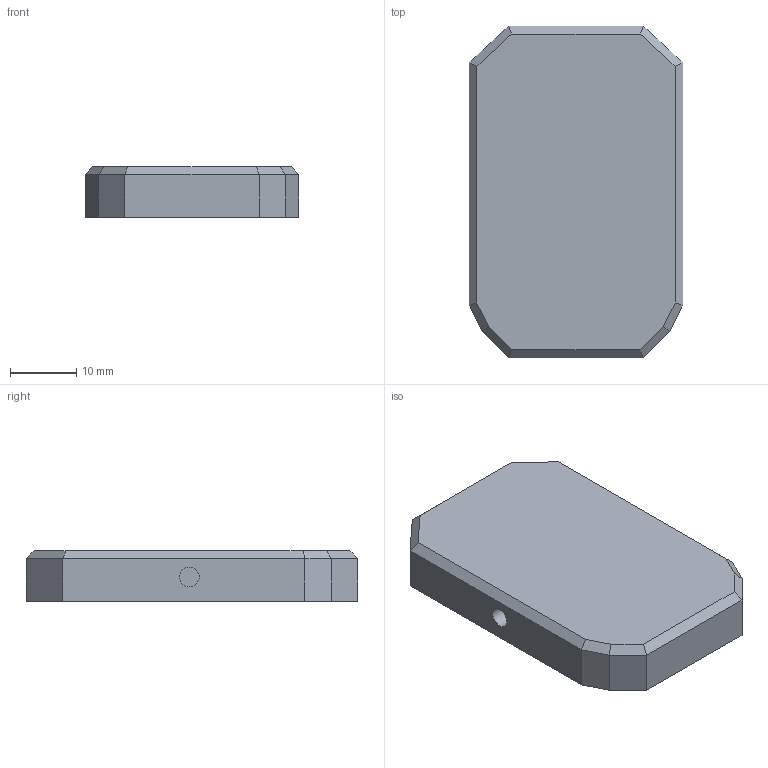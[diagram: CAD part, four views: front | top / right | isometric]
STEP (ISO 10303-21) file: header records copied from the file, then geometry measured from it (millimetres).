
FILE_DESCRIPTION(('Open CASCADE Model'),'2;1');
FILE_NAME('Open CASCADE Shape Model','2026-10-30T16:43:28',('Author'),( 'Open CASCADE'),'Open CASCADE STEP processor 8.0','Open CASCADE 8.0' ,'Unknown');
FILE_SCHEMA(('AP242_MANAGED_MODEL_BASED_3D_ENGINEERING_MIM_LF {1 0 10303 442 1 1 4 }' ));
Length unit declared in the file: millimetre
Products named in the file (1): Open CASCADE STEP translator 8.0 12
Bounding box: 32.4 x 50.2 x 7.7 mm (x, y, z)
Volume: 4143.9 mm3; surface area: 5082.9 mm2
Topology: 1 solids, 1 shells, 30 faces, 71 edges, 44 vertices
Faces by surface type: plane 29, cylinder 1
Full cylindrical faces by diameter (mm): 3 x1
Entity records: 1762 total; most frequent: CARTESIAN_POINT 300, DIRECTION 265, LINE 197, VECTOR 197, ORIENTED_EDGE 142, PCURVE 142, DEFINITIONAL_REPRESENTATION 142, EDGE_CURVE 71
